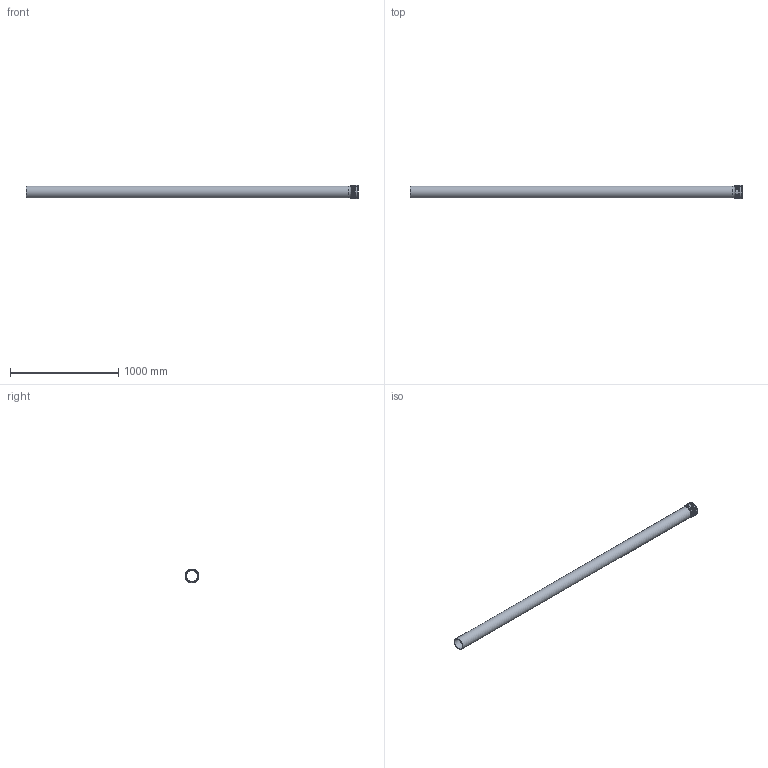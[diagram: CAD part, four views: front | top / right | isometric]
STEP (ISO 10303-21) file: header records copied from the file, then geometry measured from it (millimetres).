
FILE_DESCRIPTION(/* description */ (''),/* implementation_level */ '2;1');
FILE_NAME(/* name */ 'H:\Geberit-Teile\Export\PP_Rohr\stp\393507.stp',/* time_stamp */ '2017-02-13T16:08:57+01:00',/* author */ ('seihe2'),/* organization */ (''),/* preprocessor_version */ 'ST-DEVELOPER v15.2',/* originating_system */ 'Autodesk Inventor 2014',/* authorisation */ '');
FILE_SCHEMA (('AUTOMOTIVE_DESIGN { 1 0 10303 214 3 1 1 }'));
Length unit declared in the file: millimetre
Products named in the file (1): 393507
Bounding box: 3068.1 x 128.7 x 128.7 mm (x, y, z)
Volume: 4617840.4 mm3; surface area: 2065017.8 mm2
Topology: 2 solids, 2 shells, 38 faces, 81 edges, 56 vertices
Faces by surface type: torus 17, cylinder 10, plane 8, cone 2, bspline 1
Full cylindrical faces by diameter (mm): 101.2 x2, 110.2 x2, 111.1 x1, 113.7 x1, 119.5 x1, 121.3 x1, 122.1 x1, 128.7 x1
Entity records: 2113 total; most frequent: CARTESIAN_POINT 1334, DIRECTION 130, ORIENTED_EDGE 124, EDGE_LOOP 69, AXIS2_PLACEMENT_3D 65, EDGE_CURVE 62, VERTEX_POINT 55, STYLED_ITEM 40
